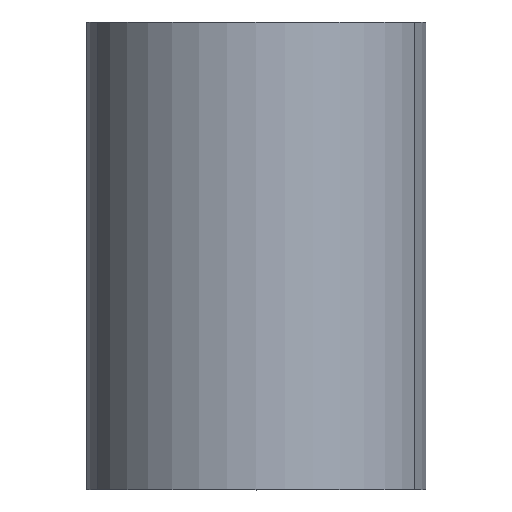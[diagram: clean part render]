
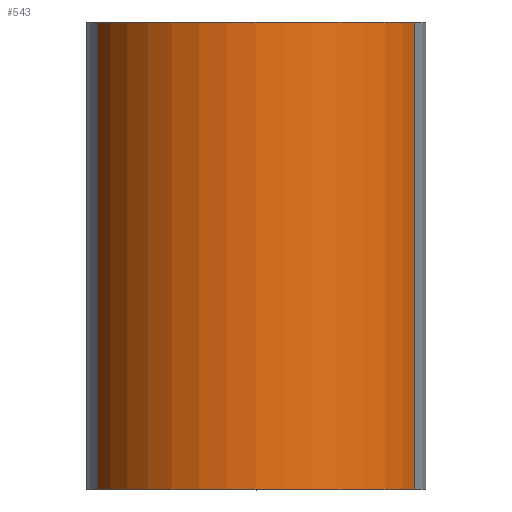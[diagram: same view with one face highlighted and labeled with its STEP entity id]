
A CAD part, top view. The second image highlights one B-rep face of the part: STEP entity #543.
In plain terms, the highlighted cylindrical face has radius 20 mm (diameter 40 mm), a partial arc.
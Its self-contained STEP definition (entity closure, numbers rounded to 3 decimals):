
#32=CIRCLE('',#658,20.);
#33=CIRCLE('',#659,20.);
#40=CYLINDRICAL_SURFACE('',#657,20.);
#46=FACE_OUTER_BOUND('',#76,.T.);
#76=EDGE_LOOP('',(#360,#361,#362,#363));
#110=LINE('',#868,#174);
#111=LINE('',#874,#175);
#174=VECTOR('',#712,10.);
#175=VECTOR('',#719,10.);
#236=VERTEX_POINT('',#864);
#237=VERTEX_POINT('',#866);
#238=VERTEX_POINT('',#870);
#239=VERTEX_POINT('',#872);
#286=EDGE_CURVE('',#236,#237,#110,.T.);
#287=EDGE_CURVE('',#238,#236,#32,.T.);
#288=EDGE_CURVE('',#239,#237,#33,.T.);
#289=EDGE_CURVE('',#238,#239,#111,.T.);
#360=ORIENTED_EDGE('',*,*,#287,.T.);
#361=ORIENTED_EDGE('',*,*,#286,.T.);
#362=ORIENTED_EDGE('',*,*,#288,.F.);
#363=ORIENTED_EDGE('',*,*,#289,.F.);
#543=ADVANCED_FACE('',(#46),#40,.T.);
#657=AXIS2_PLACEMENT_3D('',#869,#713,#714);
#658=AXIS2_PLACEMENT_3D('',#871,#715,#716);
#659=AXIS2_PLACEMENT_3D('',#873,#717,#718);
#712=DIRECTION('',(0.,1.,0.));
#713=DIRECTION('center_axis',(0.,1.,0.));
#714=DIRECTION('ref_axis',(-1.,0.,0.));
#715=DIRECTION('center_axis',(0.,1.,0.));
#716=DIRECTION('ref_axis',(-1.,0.,0.));
#717=DIRECTION('center_axis',(0.,1.,0.));
#718=DIRECTION('ref_axis',(-1.,0.,0.));
#719=DIRECTION('',(0.,1.,0.));
#864=CARTESIAN_POINT('',(18.688,0.,7.126));
#866=CARTESIAN_POINT('',(18.688,55.,7.126));
#868=CARTESIAN_POINT('',(18.688,0.,7.126));
#869=CARTESIAN_POINT('Origin',(0.,0.,0.));
#870=CARTESIAN_POINT('',(-18.688,0.,7.126));
#871=CARTESIAN_POINT('Origin',(0.,0.,0.));
#872=CARTESIAN_POINT('',(-18.688,55.,7.126));
#873=CARTESIAN_POINT('Origin',(0.,55.,0.));
#874=CARTESIAN_POINT('',(-18.688,0.,7.126));
